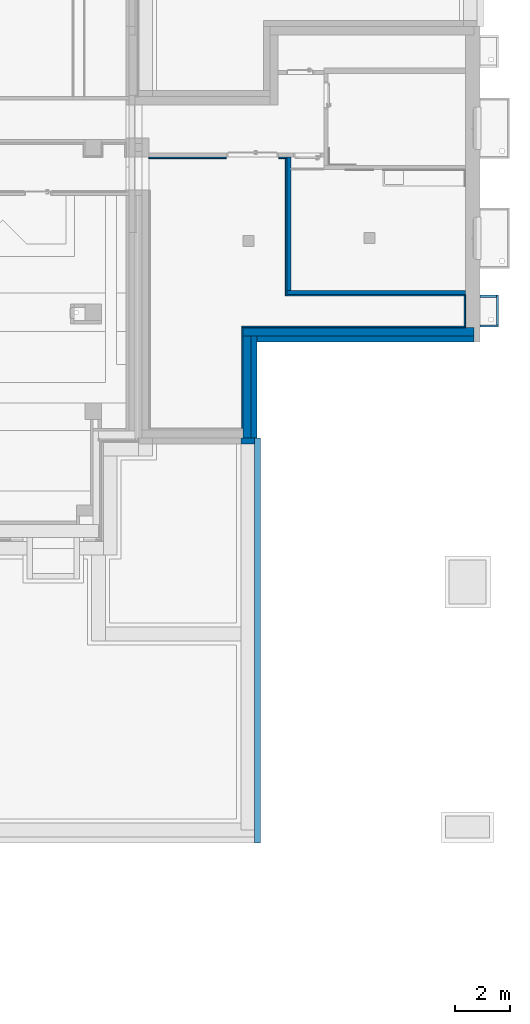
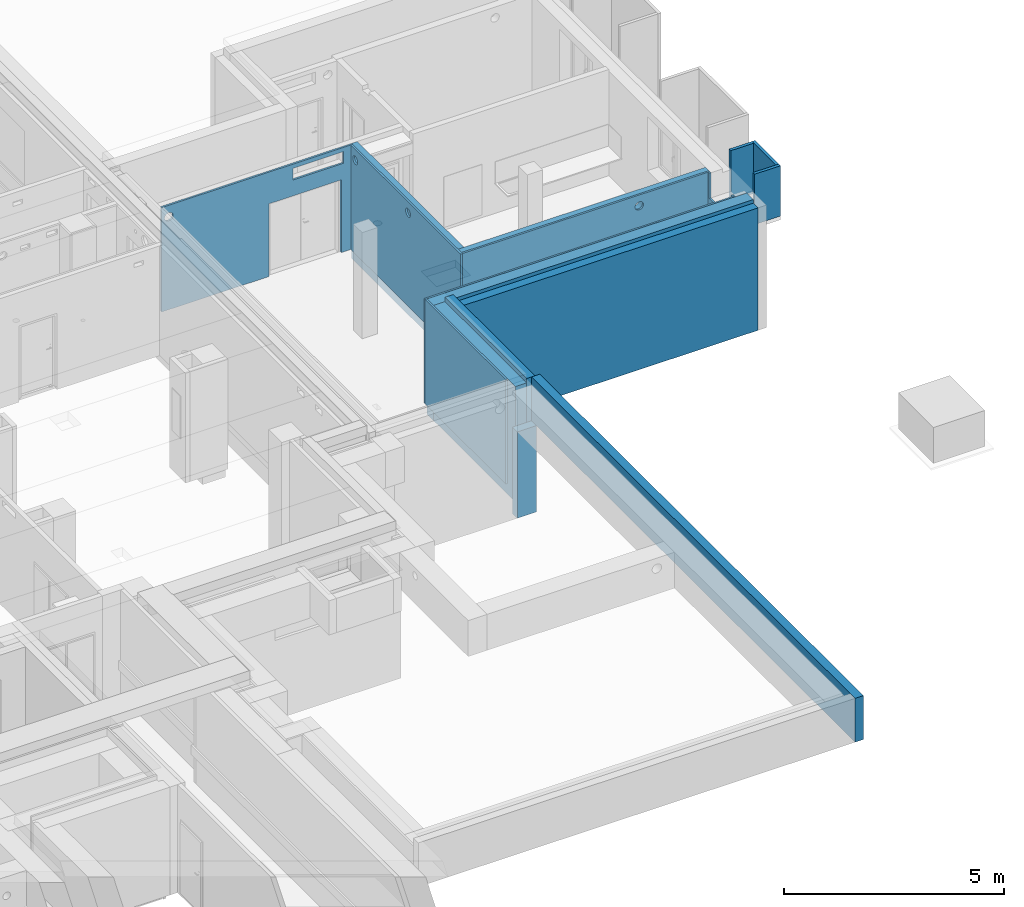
# One storey, part 43 of 84: 17 walls, 10 openings.
"""IFC4 building model written with IfcOpenShell, lengths in metres."""

from ifc_helpers import new_model, entity, si_unit, converted_unit, derived_unit, frame, frame_2d, origin, origin_with_axes, place, context, subcontext, project, spatial, polyline, rectangle, outline, extrude, material, layer, layer_set, layer_usage, element, save


model = new_model("IFC4")

# Units and contexts
model_context = context("Model", 3, precision=1e-05, world=origin())
body_context = subcontext(model_context, "Body", "Model", "MODEL_VIEW")
ifc_project = project(units=[si_unit("LENGTHUNIT", "METRE"), si_unit("AREAUNIT", "SQUARE_METRE"), si_unit("VOLUMEUNIT", "CUBIC_METRE"), si_unit("MASSUNIT", "GRAM", prefix="KILO"), converted_unit("PLANEANGLEUNIT", "DEGREE", entity("IfcPlaneAngleMeasure", 0.0174532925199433), si_unit("PLANEANGLEUNIT", "RADIAN"), dimensions=[0, 0, 0, 0, 0, 0, 0]), derived_unit("THERMALTRANSMITTANCEUNIT", [(si_unit("POWERUNIT", "WATT"), 1), (si_unit("THERMODYNAMICTEMPERATUREUNIT", "KELVIN"), -1), (si_unit("LENGTHUNIT", "METRE"), -2)]), derived_unit("VOLUMETRICFLOWRATEUNIT", [(si_unit("LENGTHUNIT", "METRE"), 3), (converted_unit("TIMEUNIT", "hour", entity("IfcTimeMeasure", 3600.0), si_unit("TIMEUNIT", "SECOND"), dimensions=[0, 0, 1, 0, 0, 0, 0]), -1), (si_unit("LENGTHUNIT", "METRE"), -1)])], contexts=[model_context])

# Site, building, storey
site_placement = place(None, origin())
site = spatial("IfcSite", under=ifc_project, at=site_placement, Name="3. ASŘ", CompositionType="ELEMENT")
building_placement = place(site_placement, origin())
building = spatial("IfcBuilding", under=site, at=building_placement, Name="Pavilon C", CompositionType="ELEMENT")
storey_placement = place(building_placement, frame((0.0, 0.0, -3.3)))
storey = spatial("IfcBuildingStorey", under=building, at=storey_placement, Name="Půdorys 1.PP", CompositionType="ELEMENT", Elevation=-3.3)

# Wall
ifc_material_1 = material(Name="AKUSTICKÝ OBKLAD")
ifc_layer_1 = layer(ifc_material_1, 0.05)
ifc_layer_set_1 = layer_set([ifc_layer_1])
ifc_layer_usage_1 = layer_usage(ifc_layer_set_1, "AXIS2", "POSITIVE", 0.0)
wall_1_placement = place(storey_placement, frame((55.4, 2.98, 0.0), z_axis=(0.0, 0.0, 1.0), x_axis=(0.0, 1.0, 0.0)))
element("IfcWall", 1, at=wall_1_placement, inside=storey, material=ifc_layer_usage_1, Name="AKUSTICKÝ OBKLAD", context=body_context, shape_type="SweptSolid", body=[
    extrude(rectangle(XDim=3.66999999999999, YDim=0.05, at=frame_2d((1.83499999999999, 0.025), x_axis=(1.0, 0.0))), origin_with_axes(), (0.0, 0.0, 1.0), 2.9),
])

# Wall, openings
ifc_material_2 = material(Name="AKUSTICKÝ OBKLAD")
ifc_layer_2 = layer(ifc_material_2, 0.05)
ifc_layer_set_2 = layer_set([ifc_layer_2])
ifc_layer_usage_2 = layer_usage(ifc_layer_set_2, "AXIS2", "POSITIVE", 0.0)
wall_2_placement = place(storey_placement, frame((57.0, 12.85, 0.0), z_axis=(0.0, 0.0, 1.0), x_axis=(-1.0, 0.0, 0.0)))
wall_2 = element("IfcWall", 2, at=wall_2_placement, inside=storey, material=ifc_layer_usage_2, Name="AKUSTICKÝ OBKLAD", context=body_context, shape_type="SweptSolid", body=[
    extrude(rectangle(XDim=5.01999999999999, YDim=0.05, at=frame_2d((2.50999999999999, 0.025), x_axis=(1.0, 0.0))), origin_with_axes(), (0.0, 0.0, 1.0), 2.9),
])
opening_1_placement = place(wall_2_placement, frame((2.2, 0.05, 0.0), z_axis=(0.0, -1.0, 0.0), x_axis=(0.0, 0.0, 1.0)))
element("IfcOpeningElement", 3, at=opening_1_placement, cuts=wall_2, Name="Dveřní otvor", ObjectType="Opening", context=body_context, shape_type="SweptSolid", body=[
    extrude(outline(polyline([(0.0, 1.9), (2.02, 1.9), (2.02, 0.0), (0.0, 0.0), (0.0, 1.9)])), origin_with_axes(), (0.0, 0.0, 1.0), 0.05),
])
opening_2_placement = place(wall_2_placement, frame((1.56502042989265, 0.05, 2.46), z_axis=(0.0, -1.0, 0.0), x_axis=(0.0, 0.0, 1.0)))
element("IfcOpeningElement", 4, at=opening_2_placement, cuts=wall_2, Name="Prostup stěnou", ObjectType="Opening", context=body_context, shape_type="SweptSolid", body=[
    extrude(outline(polyline([(0.0, 1.325), (0.325, 1.325), (0.325, 0.0), (0.0, 0.0), (0.0, 1.325)])), origin_with_axes(), (0.0, 0.0, 1.0), 0.05),
])
opening_3_placement = place(wall_2_placement, frame((4.94140628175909, 0.05, 2.4675), z_axis=(0.0, -1.0, 0.0), x_axis=(0.0, 0.0, 1.0)))
element("IfcOpeningElement", 5, at=opening_3_placement, cuts=wall_2, Name="Prostup stěnou", ObjectType="Opening", context=body_context, shape_type="SweptSolid", body=[
    extrude(outline(polyline([(0.1125, 0.0), (0.100740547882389, 0.000616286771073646), (0.089109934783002, 0.00245839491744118), (0.0777355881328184, 0.00550614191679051), (0.0667421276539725, 0.00972613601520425), (0.05625, 0.0150721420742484), (0.0463741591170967, 0.0214855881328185), (0.0372228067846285, 0.0288962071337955), (0.0288962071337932, 0.0372228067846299), (0.0214855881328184, 0.0463741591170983), (0.0150721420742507, 0.05625), (0.00972613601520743, 0.0667421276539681), (0.00550614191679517, 0.0777355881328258), (0.00245839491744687, 0.0891099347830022), (0.000616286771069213, 0.100740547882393), (0.0, 0.1125), (0.000616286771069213, 0.124259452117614), (0.00245839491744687, 0.135890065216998), (0.00550614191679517, 0.147264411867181), (0.00972613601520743, 0.158257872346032), (0.0150721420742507, 0.16875), (0.0214855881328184, 0.178625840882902), (0.0288962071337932, 0.18777719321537), (0.0372228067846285, 0.196103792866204), (0.0463741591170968, 0.203514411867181), (0.05625, 0.209927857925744), (0.0667421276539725, 0.215273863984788), (0.0777355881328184, 0.219493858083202), (0.089109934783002, 0.222541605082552), (0.100740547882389, 0.224383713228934), (0.1125, 0.225), (0.124259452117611, 0.224383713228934), (0.135890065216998, 0.222541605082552), (0.147264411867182, 0.219493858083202), (0.158257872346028, 0.215273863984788), (0.16875, 0.209927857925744), (0.178625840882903, 0.203514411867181), (0.187777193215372, 0.196103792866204), (0.196103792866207, 0.18777719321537), (0.203514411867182, 0.178625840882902), (0.209927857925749, 0.16875), (0.215273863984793, 0.158257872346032), (0.219493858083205, 0.147264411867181), (0.222541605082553, 0.135890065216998), (0.224383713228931, 0.124259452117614), (0.225, 0.1125), (0.224383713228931, 0.100740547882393), (0.222541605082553, 0.0891099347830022), (0.219493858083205, 0.0777355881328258), (0.215273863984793, 0.0667421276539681), (0.209927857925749, 0.05625), (0.203514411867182, 0.0463741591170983), (0.196103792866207, 0.0372228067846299), (0.187777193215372, 0.0288962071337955), (0.178625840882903, 0.0214855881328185), (0.16875, 0.0150721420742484), (0.158257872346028, 0.00972613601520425), (0.147264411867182, 0.00550614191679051), (0.135890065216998, 0.00245839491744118), (0.124259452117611, 0.000616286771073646), (0.1125, 0.0)])), origin_with_axes(), (0.0, 0.0, 1.0), 0.05),
])

ifc_material_3 = material(Name="AKUSTICKÝ OBKLAD")
ifc_layer_3 = layer(ifc_material_3, 0.05)
ifc_layer_set_3 = layer_set([ifc_layer_3])
ifc_layer_usage_3 = layer_usage(ifc_layer_set_3, "AXIS2", "POSITIVE", 0.0)
wall_3_placement = place(storey_placement, frame((57.0, 7.79999999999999, 0.0), z_axis=(0.0, 0.0, 1.0), x_axis=(0.0, 1.0, 0.0)))
wall_3 = element("IfcWall", 6, at=wall_3_placement, inside=storey, material=ifc_layer_usage_3, Name="AKUSTICKÝ OBKLAD", context=body_context, shape_type="SweptSolid", body=[
    extrude(rectangle(XDim=5.00000000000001, YDim=0.05, at=frame_2d((2.5, 0.025), x_axis=(1.0, 0.0))), origin_with_axes(), (0.0, 0.0, 1.0), 2.9),
])
opening_4_placement = place(wall_3_placement, frame((2.51004160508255, 0.0501511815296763, 2.4875), z_axis=(0.0, -1.0, 0.0), x_axis=(0.0, 0.0, 1.0)))
element("IfcOpeningElement", 7, at=opening_4_placement, cuts=wall_3, Name="Prostup stěnou", ObjectType="Opening", context=body_context, shape_type="SweptSolid", body=[
    extrude(outline(polyline([(0.112499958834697, 0.0), (0.100740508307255, 0.000616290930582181), (0.0891098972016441, 0.00245840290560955), (0.0777355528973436, 0.00550615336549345), (0.0667420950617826, 0.00972615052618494), (0.0562499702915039, 0.0150721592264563), (0.0463741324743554, 0.0214856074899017), (0.0372227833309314, 0.0288962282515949), (0.0288961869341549, 0.0372228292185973), (0.0214855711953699, 0.0463741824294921), (0.0150721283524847, 0.0562500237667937), (0.00972612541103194, 0.0667421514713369), (0.00550613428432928, 0.0777356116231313), (0.00245839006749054, 0.0891099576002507), (0.000616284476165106, 0.100740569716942), (0.0, 0.112500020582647), (0.000616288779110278, 0.124259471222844), (0.00245839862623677, 0.135890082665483), (0.00550614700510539, 0.147264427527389), (0.00972614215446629, 0.158257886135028), (0.0150721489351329, 0.168750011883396), (0.021485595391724, 0.17862585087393), (0.028896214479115, 0.187777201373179), (0.0372228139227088, 0.196103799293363), (0.0463741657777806, 0.203514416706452), (0.0562500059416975, 0.209927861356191), (0.0667421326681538, 0.215273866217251), (0.0777355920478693, 0.219493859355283), (0.0891099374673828, 0.222541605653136), (0.100740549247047, 0.224383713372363), (0.112499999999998, 0.225), (0.124259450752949, 0.224383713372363), (0.135890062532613, 0.222541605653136), (0.147264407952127, 0.219493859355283), (0.158257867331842, 0.215273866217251), (0.168749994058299, 0.209927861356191), (0.178625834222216, 0.203514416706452), (0.187777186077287, 0.196103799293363), (0.196103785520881, 0.187777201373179), (0.203514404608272, 0.17862585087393), (0.209927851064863, 0.168750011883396), (0.21527385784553, 0.158257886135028), (0.219493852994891, 0.147264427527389), (0.222541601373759, 0.135890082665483), (0.224383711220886, 0.124259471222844), (0.224999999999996, 0.112500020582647), (0.224383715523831, 0.100740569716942), (0.222541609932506, 0.0891099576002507), (0.219493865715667, 0.0777356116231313), (0.215273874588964, 0.0667421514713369), (0.209927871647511, 0.0562500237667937), (0.203514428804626, 0.0463741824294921), (0.196103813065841, 0.0372228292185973), (0.187777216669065, 0.0288962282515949), (0.178625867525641, 0.0214856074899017), (0.168750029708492, 0.0150721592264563), (0.158257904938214, 0.00972615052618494), (0.147264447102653, 0.00550615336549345), (0.135890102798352, 0.00245840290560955), (0.124259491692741, 0.000616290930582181), (0.112499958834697, 0.0)])), origin_with_axes(), (0.0, 0.0, 1.0), 0.05),
])
opening_5_placement = place(wall_3_placement, frame((4.91236763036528, 0.05, 2.4875), z_axis=(0.0, -1.0, 0.0), x_axis=(0.0, 0.0, 1.0)))
element("IfcOpeningElement", 8, at=opening_5_placement, cuts=wall_3, Name="Prostup stěnou", ObjectType="Opening", context=body_context, shape_type="SweptSolid", body=[
    extrude(outline(polyline([(0.112499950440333, 0.0), (0.100740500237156, 0.000616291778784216), (0.0891098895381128, 0.00245840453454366), (0.0777355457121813, 0.00550615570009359), (0.0667420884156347, 0.00972615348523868), (0.0562499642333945, 0.0150721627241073), (0.0463741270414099, 0.0214856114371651), (0.0372227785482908, 0.0288962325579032), (0.0288961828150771, 0.0372228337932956), (0.0214855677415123, 0.046374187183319), (0.0150721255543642, 0.0562500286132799), (0.00972612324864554, 0.0667421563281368), (0.0055061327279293, 0.077735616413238), (0.0024583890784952, 0.0891099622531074), (0.000616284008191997, 0.100740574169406), (0.0, 0.112500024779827), (0.000616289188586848, 0.124259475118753), (0.00245839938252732, 0.135890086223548), (0.00550614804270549, 0.147264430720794), (0.00972614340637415, 0.15825788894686), (0.015072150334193, 0.168750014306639), (0.0214855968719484, 0.178625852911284), (0.0288962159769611, 0.187777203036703), (0.0372228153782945, 0.196103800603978), (0.0463741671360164, 0.203514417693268), (0.0562500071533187, 0.20992786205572), (0.0667421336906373, 0.215273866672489), (0.0777355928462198, 0.219493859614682), (0.0891099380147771, 0.222541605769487), (0.100740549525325, 0.22438371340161), (0.112499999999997, 0.225), (0.124259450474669, 0.22438371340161), (0.135890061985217, 0.222541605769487), (0.147264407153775, 0.219493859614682), (0.158257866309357, 0.215273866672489), (0.168749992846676, 0.20992786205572), (0.178625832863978, 0.203514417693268), (0.1877771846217, 0.196103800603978), (0.196103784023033, 0.187777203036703), (0.203514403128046, 0.178625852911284), (0.209927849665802, 0.168750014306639), (0.21527385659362, 0.15825788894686), (0.219493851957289, 0.147264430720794), (0.222541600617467, 0.135890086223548), (0.224383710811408, 0.124259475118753), (0.224999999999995, 0.112500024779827), (0.224383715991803, 0.100740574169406), (0.222541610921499, 0.0891099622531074), (0.219493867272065, 0.077735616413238), (0.215273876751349, 0.0667421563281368), (0.20992787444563, 0.0562500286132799), (0.203514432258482, 0.046374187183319), (0.196103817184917, 0.0372228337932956), (0.187777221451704, 0.0288962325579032), (0.178625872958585, 0.0214856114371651), (0.1687500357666, 0.0150721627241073), (0.15825791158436, 0.00972615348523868), (0.147264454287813, 0.00550615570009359), (0.135890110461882, 0.00245840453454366), (0.124259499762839, 0.000616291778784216), (0.112499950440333, 0.0)])), origin_with_axes(), (0.0, 0.0, 1.0), 0.05),
])

# Wall, opening
ifc_material_4 = material(Name="AKUSTICKÝ OBKLAD")
ifc_layer_4 = layer(ifc_material_4, 0.05)
ifc_layer_set_4 = layer_set([ifc_layer_4])
ifc_layer_usage_4 = layer_usage(ifc_layer_set_4, "AXIS2", "POSITIVE", 0.0)
wall_4_placement = place(storey_placement, frame((63.5, 7.84999999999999, 0.0), z_axis=(0.0, 0.0, 1.0), x_axis=(-1.0, 0.0, 0.0)))
wall_4 = element("IfcWall", 9, at=wall_4_placement, inside=storey, material=ifc_layer_usage_4, Name="AKUSTICKÝ OBKLAD", context=body_context, shape_type="SweptSolid", body=[
    extrude(rectangle(XDim=6.5, YDim=0.05, at=frame_2d((3.25, 0.025), x_axis=(1.0, 0.0))), origin_with_axes(), (0.0, 0.0, 1.0), 2.9),
])
opening_6_placement = place(wall_4_placement, frame((1.97089559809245, 0.05, 2.4875), z_axis=(0.0, -1.0, 0.0), x_axis=(0.0, 0.0, 1.0)))
element("IfcOpeningElement", 10, at=opening_6_placement, cuts=wall_4, Name="Prostup stěnou", ObjectType="Opening", context=body_context, shape_type="SweptSolid", body=[
    extrude(outline(polyline([(0.1125, 0.0), (0.100740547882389, 0.000616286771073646), (0.089109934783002, 0.00245839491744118), (0.0777355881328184, 0.00550614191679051), (0.0667421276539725, 0.00972613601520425), (0.05625, 0.0150721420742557), (0.0463741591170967, 0.0214855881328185), (0.0372228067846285, 0.0288962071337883), (0.0288962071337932, 0.0372228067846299), (0.0214855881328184, 0.0463741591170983), (0.0150721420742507, 0.05625), (0.00972613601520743, 0.0667421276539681), (0.00550614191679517, 0.0777355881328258), (0.00245839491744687, 0.0891099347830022), (0.000616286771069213, 0.100740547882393), (0.0, 0.1125), (0.000616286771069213, 0.124259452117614), (0.00245839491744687, 0.135890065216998), (0.00550614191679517, 0.147264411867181), (0.00972613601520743, 0.158257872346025), (0.0150721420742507, 0.16875), (0.0214855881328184, 0.178625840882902), (0.0288962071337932, 0.18777719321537), (0.0372228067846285, 0.196103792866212), (0.0463741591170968, 0.203514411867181), (0.05625, 0.209927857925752), (0.0667421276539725, 0.215273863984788), (0.0777355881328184, 0.219493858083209), (0.089109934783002, 0.222541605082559), (0.100740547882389, 0.224383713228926), (0.1125, 0.225), (0.124259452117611, 0.224383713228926), (0.135890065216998, 0.222541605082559), (0.147264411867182, 0.219493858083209), (0.158257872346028, 0.215273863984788), (0.16875, 0.209927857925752), (0.178625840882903, 0.203514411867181), (0.187777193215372, 0.196103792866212), (0.196103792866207, 0.18777719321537), (0.203514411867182, 0.178625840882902), (0.209927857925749, 0.16875), (0.215273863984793, 0.158257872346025), (0.219493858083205, 0.147264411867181), (0.222541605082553, 0.135890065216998), (0.224383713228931, 0.124259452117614), (0.225, 0.1125), (0.224383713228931, 0.100740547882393), (0.222541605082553, 0.0891099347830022), (0.219493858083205, 0.0777355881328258), (0.215273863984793, 0.0667421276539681), (0.209927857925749, 0.05625), (0.203514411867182, 0.0463741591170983), (0.196103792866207, 0.0372228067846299), (0.187777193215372, 0.0288962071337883), (0.178625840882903, 0.0214855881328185), (0.16875, 0.0150721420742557), (0.158257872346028, 0.00972613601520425), (0.147264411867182, 0.00550614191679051), (0.135890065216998, 0.00245839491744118), (0.124259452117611, 0.000616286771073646), (0.1125, 0.0)])), origin_with_axes(), (0.0, 0.0, 1.0), 0.05),
])

ifc_material_5 = material(Name="AKUSTICKÝ OBKLAD")
ifc_layer_5 = layer(ifc_material_5, 0.05)
ifc_layer_set_5 = layer_set([ifc_layer_5])
ifc_layer_usage_5 = layer_usage(ifc_layer_set_5, "AXIS2", "POSITIVE", 0.0)
wall_5_placement = place(storey_placement, frame((63.5, 6.69999999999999, 0.0), z_axis=(0.0, 0.0, 1.0), x_axis=(0.0, 1.0, 0.0)))
wall_5 = element("IfcWall", 11, at=wall_5_placement, inside=storey, material=ifc_layer_usage_5, Name="AKUSTICKÝ OBKLAD", context=body_context, shape_type="SweptSolid", body=[
    extrude(rectangle(XDim=1.1, YDim=0.05, at=frame_2d((0.55, 0.025), x_axis=(1.0, 0.0))), origin_with_axes(), (0.0, 0.0, 1.0), 2.9),
])
opening_7_placement = place(wall_5_placement, frame((1.05, 0.05, 2.2), z_axis=(0.0, -1.0, 0.0), x_axis=(0.0, 0.0, 1.0)))
element("IfcOpeningElement", 12, at=opening_7_placement, cuts=wall_5, Name="Prostup stěnou", ObjectType="Opening", context=body_context, shape_type="SweptSolid", body=[
    extrude(outline(polyline([(0.0, 1.0), (0.700000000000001, 1.0), (0.700000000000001, 0.0), (0.0, 0.0), (0.0, 1.0)])), origin_with_axes(), (0.0, 0.0, 1.0), 0.05),
])

# Walls
ifc_material_6 = material(Name="AKUSTICKÝ OBKLAD")
ifc_layer_6 = layer(ifc_material_6, 0.05)
ifc_layer_set_6 = layer_set([ifc_layer_6])
ifc_layer_usage_6 = layer_usage(ifc_layer_set_6, "AXIS2", "POSITIVE", 0.0)
wall_6_placement = place(storey_placement, frame((55.35, 6.64999999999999, 0.0), z_axis=(0.0, 0.0, 1.0), x_axis=(1.0, -1.11594441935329e-16, 0.0)))
element("IfcWall", 13, at=wall_6_placement, inside=storey, material=ifc_layer_usage_6, Name="AKUSTICKÝ OBKLAD", context=body_context, shape_type="SweptSolid", body=[
    extrude(rectangle(XDim=8.15, YDim=0.05, at=frame_2d((4.075, 0.025), x_axis=(1.0, 0.0))), origin_with_axes(), (0.0, 0.0, 1.0), 2.9),
])
ifc_material_7 = material(Name="PERIMETR")
ifc_layer_7 = layer(ifc_material_7, 0.22)
ifc_layer_set_7 = layer_set([ifc_layer_7])
ifc_layer_usage_7 = layer_usage(ifc_layer_set_7, "AXIS2", "POSITIVE", 0.0)
wall_7_placement = place(storey_placement, frame((55.8250000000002, 2.63, 1.8), z_axis=(0.0, 0.0, 1.0), x_axis=(0.0, -1.0, 0.0)))
element("IfcWall", 14, at=wall_7_placement, inside=storey, material=ifc_layer_usage_7, Name="PERIMETR", context=body_context, shape_type="SweptSolid", body=[
    extrude(rectangle(XDim=14.725, YDim=0.22, at=frame_2d((7.3625, 0.11), x_axis=(1.0, 0.0))), origin_with_axes(), (0.0, 0.0, 1.0), 1.22),
])
ifc_material_8 = material(Name="PERIMETR")
ifc_layer_8 = layer(ifc_material_8, 0.22)
ifc_layer_set_8 = layer_set([ifc_layer_8])
ifc_layer_usage_8 = layer_usage(ifc_layer_set_8, "AXIS2", "POSITIVE", 0.0)
wall_8_placement = place(storey_placement, frame((55.3250000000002, 2.41, -0.6)))
element("IfcWall", 15, at=wall_8_placement, inside=storey, material=ifc_layer_usage_8, Name="PERIMETR", context=body_context, shape_type="SweptSolid", body=[
    extrude(rectangle(XDim=0.5, YDim=0.22, at=frame_2d((0.25, 0.11), x_axis=(1.0, 0.0))), origin_with_axes(), (0.0, 0.0, 1.0), 2.4),
])
ifc_material_9 = material(Name="PERIMETR")
ifc_layer_9 = layer(ifc_material_9, 0.22)
ifc_layer_set_9 = layer_set([ifc_layer_9])
ifc_layer_usage_9 = layer_usage(ifc_layer_set_9, "AXIS2", "POSITIVE", 0.0)
wall_9_placement = place(storey_placement, frame((55.7, 6.34999999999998, -0.6), z_axis=(0.0, 0.0, 1.0), x_axis=(0.0, -1.0, 0.0)))
element("IfcWall", 16, at=wall_9_placement, inside=storey, material=ifc_layer_usage_9, Name="PERIMETR", context=body_context, shape_type="SweptSolid", body=[
    extrude(rectangle(XDim=3.71999999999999, YDim=0.22, at=frame_2d((1.85999999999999, 0.11), x_axis=(1.0, 0.0))), origin_with_axes(), (0.0, 0.0, 1.0), 3.62),
])
ifc_material_10 = material(Name="PERIMETR")
ifc_layer_10 = layer(ifc_material_10, 0.22)
ifc_layer_set_10 = layer_set([ifc_layer_10])
ifc_layer_usage_10 = layer_usage(ifc_layer_set_10, "AXIS2", "POSITIVE", 0.0)
wall_10_placement = place(storey_placement, frame((63.8, 6.34999999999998, -0.6), z_axis=(0.0, 0.0, 1.0), x_axis=(-1.0, 0.0, 0.0)))
element("IfcWall", 17, at=wall_10_placement, inside=storey, material=ifc_layer_usage_10, Name="PERIMETR", context=body_context, shape_type="SweptSolid", body=[
    extrude(rectangle(XDim=7.88, YDim=0.22, at=frame_2d((3.94, 0.11), x_axis=(1.0, 0.0))), origin_with_axes(), (0.0, 0.0, 1.0), 3.4),
])
ifc_material_11 = material(Name="ZELEZOBETONOVÁ KCE")
ifc_layer_11 = layer(ifc_material_11, 0.300000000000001)
ifc_layer_set_11 = layer_set([ifc_layer_11])
ifc_layer_usage_11 = layer_usage(ifc_layer_set_11, "AXIS2", "POSITIVE", 0.0)
wall_11_placement = place(storey_placement, frame((55.4, 6.34999999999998, -0.3), z_axis=(0.0, 0.0, 1.0), x_axis=(1.0, -1.08273178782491e-16, 0.0)))
element("IfcWall", 18, at=wall_11_placement, inside=storey, material=ifc_layer_usage_11, Name="ZELEZOBETONOVÁ KCE", context=body_context, shape_type="SweptSolid", body=[
    extrude(rectangle(XDim=8.4, YDim=0.300000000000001, at=frame_2d((4.2, 0.15), x_axis=(1.0, 0.0))), origin_with_axes(), (0.0, 0.0, 1.0), 3.2),
])
ifc_material_12 = material(Name="ZELEZOBETONOVÁ KCE")
ifc_layer_12 = layer(ifc_material_12, 0.3)
ifc_layer_set_12 = layer_set([ifc_layer_12])
ifc_layer_usage_12 = layer_usage(ifc_layer_set_12, "AXIS2", "POSITIVE", 0.0)
wall_12_placement = place(storey_placement, frame((55.7, 2.63, -0.3), z_axis=(0.0, 0.0, 1.0), x_axis=(0.0, 1.0, 0.0)))
element("IfcWall", 19, at=wall_12_placement, inside=storey, material=ifc_layer_usage_12, Name="ZELEZOBETONOVÁ KCE", context=body_context, shape_type="SweptSolid", body=[
    extrude(rectangle(XDim=3.71999999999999, YDim=0.3, at=frame_2d((1.85999999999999, 0.15), x_axis=(1.0, 0.0))), origin_with_axes(), (0.0, 0.0, 1.0), 3.2),
])
ifc_material_13 = material(Name="POHLEDOVY BETON")
ifc_layer_13 = layer(ifc_material_13, 0.08)
ifc_layer_set_13 = layer_set([ifc_layer_13])
ifc_layer_usage_13 = layer_usage(ifc_layer_set_13, "AXIS2", "POSITIVE", 0.0)
wall_13_placement = place(storey_placement, frame((64.0199999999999, 6.66999999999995, 1.93)))
element("IfcWall", 20, at=wall_13_placement, inside=storey, material=ifc_layer_usage_13, Name="STĚNA ANGLICKÉHO DVORKU", context=body_context, shape_type="SweptSolid", body=[
    extrude(rectangle(XDim=0.68, YDim=0.08, at=frame_2d((0.34, 0.04), x_axis=(1.0, 0.0))), origin_with_axes(), (0.0, 0.0, 1.0), 1.4),
])
ifc_material_14 = material(Name="POHLEDOVY BETON")
ifc_layer_14 = layer(ifc_material_14, 0.08)
ifc_layer_set_14 = layer_set([ifc_layer_14])
ifc_layer_usage_14 = layer_usage(ifc_layer_set_14, "AXIS2", "POSITIVE", 0.0)
wall_14_placement = place(storey_placement, frame((64.6999999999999, 6.74999999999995, 1.93), z_axis=(0.0, 0.0, 1.0), x_axis=(4.71589845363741e-14, 1.0, 0.0)))
element("IfcWall", 21, at=wall_14_placement, inside=storey, material=ifc_layer_usage_14, Name="STĚNA ANGLICKÉHO DVORKU", context=body_context, shape_type="SweptSolid", body=[
    extrude(rectangle(XDim=1.08, YDim=0.08, at=frame_2d((0.54, 0.04), x_axis=(1.0, 0.0))), origin_with_axes(), (0.0, 0.0, 1.0), 1.4),
])
ifc_material_15 = material(Name="POHLEDOVY BETON")
ifc_layer_15 = layer(ifc_material_15, 0.08)
ifc_layer_set_15 = layer_set([ifc_layer_15])
ifc_layer_usage_15 = layer_usage(ifc_layer_set_15, "AXIS2", "POSITIVE", 0.0)
wall_15_placement = place(storey_placement, frame((64.62, 7.82999999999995, 1.93), z_axis=(0.0, 0.0, 1.0), x_axis=(-1.0, 0.0, 0.0)))
element("IfcWall", 22, at=wall_15_placement, inside=storey, material=ifc_layer_usage_15, Name="STĚNA ANGLICKÉHO DVORKU", context=body_context, shape_type="SweptSolid", body=[
    extrude(rectangle(XDim=0.6, YDim=0.08, at=frame_2d((0.3, 0.04), x_axis=(1.0, 0.0))), origin_with_axes(), (0.0, 0.0, 1.0), 1.4),
])

# Wall, openings
ifc_material_16 = material(Name="SDK - 1 KCE + DVOJITÉ OPLÁŠTĚNÍ")
ifc_layer_16 = layer(ifc_material_16, 0.15)
ifc_layer_set_16 = layer_set([ifc_layer_16])
ifc_layer_usage_16 = layer_usage(ifc_layer_set_16, "AXIS2", "POSITIVE", 0.0)
wall_16_placement = place(storey_placement, frame((57.15, 7.99999999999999, -0.3), z_axis=(0.0, 0.0, 1.0), x_axis=(0.0, 1.0, 0.0)))
wall_16 = element("IfcWall", 23, at=wall_16_placement, inside=storey, material=ifc_layer_usage_16, Name="SDK - 1 KCE + DVOJITÉ OPLÁŠTĚNÍ", context=body_context, shape_type="SweptSolid", body=[
    extrude(rectangle(XDim=4.85000000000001, YDim=0.15, at=frame_2d((2.425, 0.075), x_axis=(1.0, 0.0))), origin_with_axes(), (0.0, 0.0, 1.0), 3.2),
])
opening_8_placement = place(wall_16_placement, frame((2.08504160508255, 0.000151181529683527, 2.7875), z_axis=(0.0, 1.0, 0.0), x_axis=(0.0, 0.0, 1.0)))
element("IfcOpeningElement", 24, at=opening_8_placement, cuts=wall_16, Name="VZT", ObjectType="Opening", context=body_context, shape_type="SweptSolid", body=[
    extrude(outline(polyline([(0.112499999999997, 0.0), (0.100740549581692, 0.000616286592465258), (0.0891099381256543, 0.0024583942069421), (0.0777355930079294, 0.00550614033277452), (0.066742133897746, 0.00972613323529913), (0.0562500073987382, 0.0150721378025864), (0.0463741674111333, 0.0214855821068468), (0.0372228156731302, 0.0288961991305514), (0.0288962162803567, 0.0372227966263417), (0.0214855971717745, 0.0463741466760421), (0.015072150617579, 0.0562499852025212), (0.00972614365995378, 0.0667421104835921), (0.00550614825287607, 0.0777355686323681), (0.00245839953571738, 0.0891099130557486), (0.000616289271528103, 0.100740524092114), (0.0, 0.112499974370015), (0.000616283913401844, 0.124259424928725), (0.00245838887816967, 0.135890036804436), (0.00550613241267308, 0.147264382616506), (0.00972612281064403, 0.158257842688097), (0.0150721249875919, 0.168749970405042), (0.0214855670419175, 0.178625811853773), (0.0288961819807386, 0.187777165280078), (0.0372227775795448, 0.196103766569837), (0.0463741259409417, 0.203514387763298), (0.0562499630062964, 0.209927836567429), (0.0667420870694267, 0.215273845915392), (0.0777355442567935, 0.219493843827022), (0.089109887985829, 0.22254159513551), (0.10074049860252, 0.22438370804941), (0.112499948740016, 0.225), (0.124259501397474, 0.22438370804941), (0.135890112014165, 0.22254159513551), (0.147264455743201, 0.219493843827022), (0.158257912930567, 0.215273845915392), (0.168750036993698, 0.209927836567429), (0.178625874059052, 0.203514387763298), (0.187777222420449, 0.196103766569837), (0.196103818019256, 0.187777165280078), (0.203514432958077, 0.178625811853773), (0.209927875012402, 0.168749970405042), (0.21527387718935, 0.158257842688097), (0.219493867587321, 0.147264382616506), (0.222541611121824, 0.135890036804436), (0.224383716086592, 0.124259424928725), (0.224999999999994, 0.112499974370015), (0.224383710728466, 0.100740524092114), (0.222541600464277, 0.0891099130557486), (0.219493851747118, 0.0777355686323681), (0.21527385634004, 0.0667421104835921), (0.209927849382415, 0.0562499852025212), (0.20351440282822, 0.0463741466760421), (0.196103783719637, 0.0372227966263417), (0.187777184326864, 0.0288961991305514), (0.178625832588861, 0.0214855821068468), (0.168749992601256, 0.0150721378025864), (0.158257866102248, 0.00972613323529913), (0.147264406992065, 0.00550614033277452), (0.13589006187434, 0.0024583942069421), (0.124259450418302, 0.000616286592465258), (0.112499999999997, 0.0)])), origin_with_axes(), (0.0, 0.0, 1.0), 0.15),
])
opening_9_placement = place(wall_16_placement, frame((4.48736763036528, 0.0, 2.7875), z_axis=(0.0, 1.0, 0.0), x_axis=(0.0, 0.0, 1.0)))
element("IfcOpeningElement", 25, at=opening_9_placement, cuts=wall_16, Name="VZT", ObjectType="Opening", context=body_context, shape_type="SweptSolid", body=[
    extrude(outline(polyline([(0.112499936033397, 0.0), (0.100740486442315, 0.000616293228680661), (0.0891098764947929, 0.00245840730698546), (0.0777355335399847, 0.00550615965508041), (0.0667420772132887, 0.00972615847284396), (0.0562499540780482, 0.0150721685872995), (0.0463741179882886, 0.0214856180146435), (0.0372227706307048, 0.0288962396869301), (0.0288961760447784, 0.037222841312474), (0.0214855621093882, 0.0463741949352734), (0.0150721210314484, 0.0562500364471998), (0.00972611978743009, 0.0667421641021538), (0.00550613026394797, 0.077735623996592), (0.00245838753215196, 0.0891099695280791), (0.000616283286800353, 0.100740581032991), (0.0, 0.112500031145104), (0.00061628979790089, 0.124259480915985), (0.00245840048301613, 0.135890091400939), (0.00550614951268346, 0.147264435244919), (0.00972614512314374, 0.158257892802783), (0.015072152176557, 0.168750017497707), (0.0214855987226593, 0.178625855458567), (0.0288962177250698, 0.187777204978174), (0.0372228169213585, 0.196103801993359), (0.0463741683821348, 0.203514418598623), (0.0562500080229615, 0.209927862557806), (0.0667421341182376, 0.215273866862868), (0.0777355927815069, 0.219493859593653), (0.0891099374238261, 0.222541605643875), (0.100740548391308, 0.224383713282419), (0.112499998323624, 0.225), (0.124259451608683, 0.224383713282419), (0.135890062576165, 0.222541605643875), (0.147264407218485, 0.219493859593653), (0.158257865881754, 0.215273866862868), (0.16874999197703, 0.209927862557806), (0.178625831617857, 0.203514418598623), (0.187777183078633, 0.196103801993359), (0.196103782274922, 0.187777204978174), (0.203514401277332, 0.178625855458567), (0.209927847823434, 0.168750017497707), (0.215273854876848, 0.158257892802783), (0.219493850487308, 0.147264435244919), (0.222541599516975, 0.135890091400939), (0.22438371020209, 0.124259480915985), (0.224999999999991, 0.112500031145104), (0.224383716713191, 0.100740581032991), (0.222541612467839, 0.0891099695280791), (0.219493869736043, 0.077735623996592), (0.215273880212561, 0.0667421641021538), (0.209927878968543, 0.0562500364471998), (0.203514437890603, 0.0463741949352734), (0.196103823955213, 0.037222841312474), (0.187777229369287, 0.0288962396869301), (0.178625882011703, 0.0214856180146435), (0.168750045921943, 0.0150721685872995), (0.158257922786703, 0.00972615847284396), (0.147264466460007, 0.00550615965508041), (0.135890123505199, 0.00245840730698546), (0.124259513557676, 0.000616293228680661), (0.112499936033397, 0.0)])), origin_with_axes(), (0.0, 0.0, 1.0), 0.15),
])

# Wall, opening
ifc_material_17 = material(Name="SDK - 1 KCE + DVOJITÉ OPLÁŠTĚNÍ")
ifc_layer_17 = layer(ifc_material_17, 0.15)
ifc_layer_set_17 = layer_set([ifc_layer_17])
ifc_layer_usage_17 = layer_usage(ifc_layer_set_17, "AXIS2", "POSITIVE", 0.0)
wall_17_placement = place(storey_placement, frame((63.5, 7.99999999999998, -0.3), z_axis=(0.0, 0.0, 1.0), x_axis=(-1.0, 2.79844523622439e-16, 0.0)))
wall_17 = element("IfcWall", 26, at=wall_17_placement, inside=storey, material=ifc_layer_usage_17, Name="SDK - 1 KCE + DVOJITÉ OPLÁŠTĚNÍ", context=body_context, shape_type="SweptSolid", body=[
    extrude(rectangle(XDim=6.5, YDim=0.15, at=frame_2d((3.25, 0.075), x_axis=(1.0, 0.0))), origin_with_axes(), (0.0, 0.0, 1.0), 3.2),
])
opening_10_placement = place(wall_17_placement, frame((1.74589559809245, -4.20915379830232e-16, 2.7875), z_axis=(0.0, 1.0, 0.0), x_axis=(0.0, 0.0, 1.0)))
element("IfcOpeningElement", 27, at=opening_10_placement, cuts=wall_17, Name="VZT", ObjectType="Opening", context=body_context, shape_type="SweptSolid", body=[
    extrude(outline(polyline([(0.1125, 0.225), (0.124259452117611, 0.224383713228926), (0.135890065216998, 0.222541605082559), (0.147264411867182, 0.219493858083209), (0.158257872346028, 0.215273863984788), (0.16875, 0.209927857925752), (0.178625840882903, 0.203514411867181), (0.187777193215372, 0.196103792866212), (0.196103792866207, 0.18777719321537), (0.203514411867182, 0.178625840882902), (0.209927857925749, 0.16875), (0.215273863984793, 0.158257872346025), (0.219493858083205, 0.147264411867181), (0.222541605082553, 0.135890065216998), (0.224383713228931, 0.124259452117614), (0.225, 0.1125), (0.224383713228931, 0.100740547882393), (0.222541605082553, 0.0891099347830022), (0.219493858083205, 0.0777355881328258), (0.215273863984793, 0.0667421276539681), (0.209927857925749, 0.05625), (0.203514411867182, 0.0463741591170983), (0.196103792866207, 0.0372228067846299), (0.187777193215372, 0.0288962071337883), (0.178625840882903, 0.0214855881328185), (0.16875, 0.0150721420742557), (0.158257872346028, 0.00972613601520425), (0.147264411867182, 0.00550614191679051), (0.135890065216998, 0.00245839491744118), (0.124259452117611, 0.000616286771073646), (0.1125, 0.0), (0.100740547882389, 0.000616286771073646), (0.089109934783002, 0.00245839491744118), (0.0777355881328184, 0.00550614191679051), (0.0667421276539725, 0.00972613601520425), (0.05625, 0.0150721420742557), (0.0463741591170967, 0.0214855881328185), (0.0372228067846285, 0.0288962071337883), (0.0288962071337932, 0.0372228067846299), (0.0214855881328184, 0.0463741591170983), (0.0150721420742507, 0.05625), (0.00972613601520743, 0.0667421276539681), (0.00550614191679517, 0.0777355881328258), (0.00245839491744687, 0.0891099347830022), (0.000616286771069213, 0.100740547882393), (0.0, 0.1125), (0.000616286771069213, 0.124259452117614), (0.00245839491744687, 0.135890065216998), (0.00550614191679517, 0.147264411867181), (0.00972613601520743, 0.158257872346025), (0.0150721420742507, 0.16875), (0.0214855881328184, 0.178625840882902), (0.0288962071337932, 0.18777719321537), (0.0372228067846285, 0.196103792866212), (0.0463741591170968, 0.203514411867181), (0.05625, 0.209927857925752), (0.0667421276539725, 0.215273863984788), (0.0777355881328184, 0.219493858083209), (0.089109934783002, 0.222541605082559), (0.100740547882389, 0.224383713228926), (0.1125, 0.225)])), origin_with_axes(), (0.0, 0.0, 1.0), 0.15),
])

save(model, "model.ifc")
